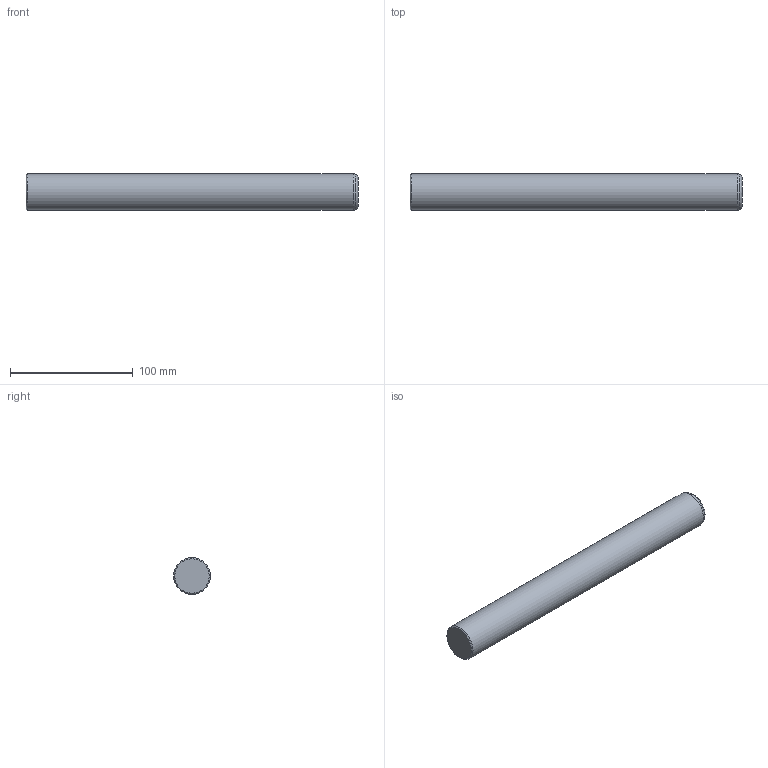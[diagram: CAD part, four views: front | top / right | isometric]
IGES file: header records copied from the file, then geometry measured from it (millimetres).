
Global section: file name: CIS30270.ipt; native system: Autodesk Inventor 2021; preprocessor: unknown; author: SM; date: 20211220.124427; units: millimetre
Bounding box: 270 x 30 x 30 mm (x, y, z)
Volume: 190530.6 mm3; surface area: 26646.8 mm2
Topology: 1 solids, 1 shells, 6 faces, 11 edges, 7 vertices
Faces by surface type: cone 2, plane 2, revolution 1, cylinder 1
Full cylindrical faces by diameter (mm): 30 x1
